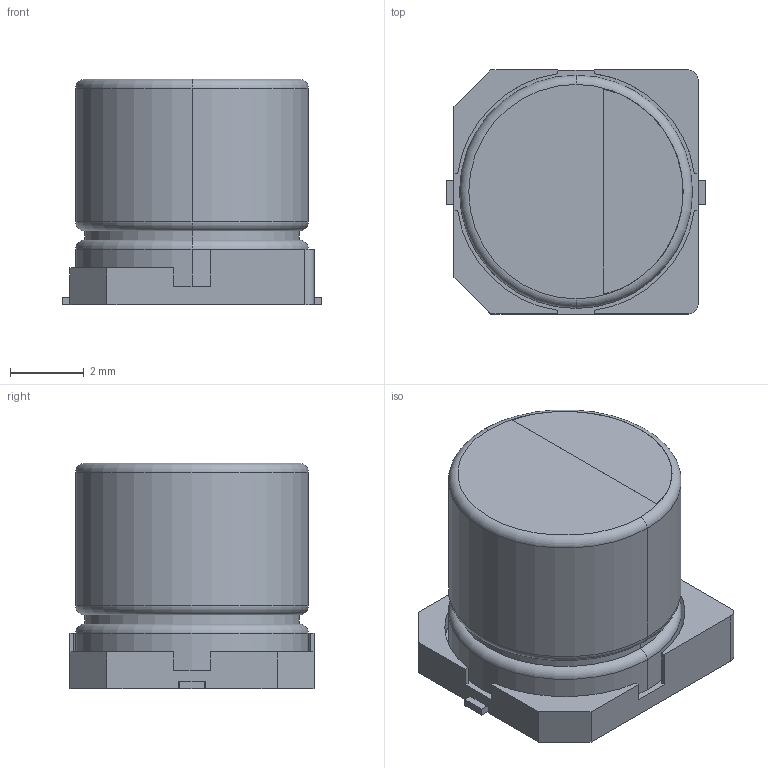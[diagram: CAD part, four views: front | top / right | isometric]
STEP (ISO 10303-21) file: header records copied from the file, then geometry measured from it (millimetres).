
FILE_DESCRIPTION (( 'STEP AP214' ), '1' );
FILE_NAME ( 'CAPAE660X610L260X65.STEP', '2021-10-06T06:48:58', ( '' ), ( '' ), '', '©2017 PCB Libraries, Inc.', '' );
FILE_SCHEMA (( 'AUTOMOTIVE_DESIGN' ));
Length unit declared in the file: millimetre
Products named in the file (1): CAPAE660X610L260X65
Bounding box: 7 x 6.6 x 6.1 mm (x, y, z)
Volume: 200.9 mm3; surface area: 331 mm2
Topology: 5 solids, 5 shells, 64 faces, 152 edges, 98 vertices
Faces by surface type: plane 41, cylinder 17, torus 6
Entity records: 2087 total; most frequent: DIRECTION 324, CARTESIAN_POINT 315, ORIENTED_EDGE 304, EDGE_CURVE 152, VECTOR 110, LINE 110, AXIS2_PLACEMENT_3D 107, VERTEX_POINT 98
